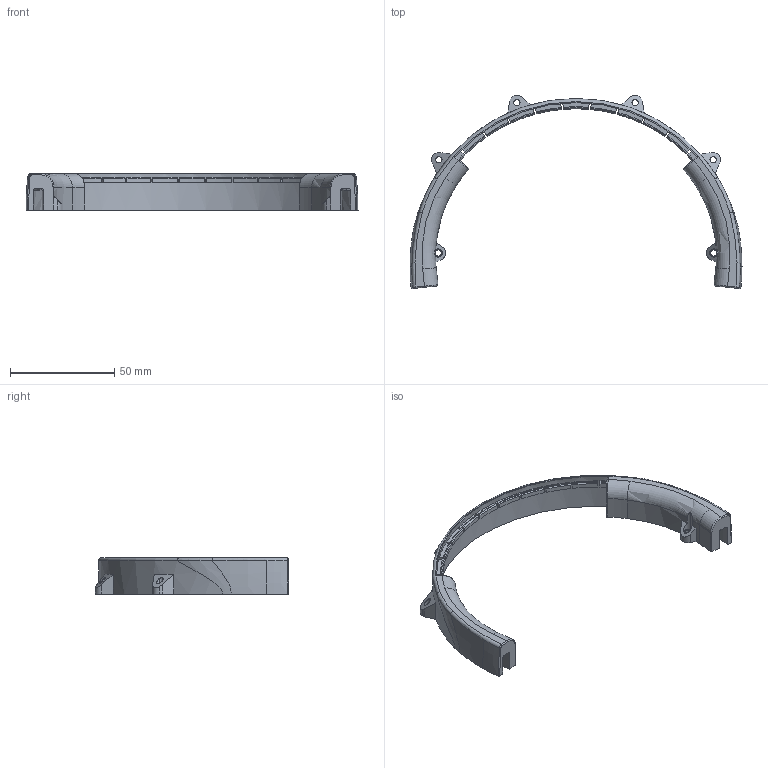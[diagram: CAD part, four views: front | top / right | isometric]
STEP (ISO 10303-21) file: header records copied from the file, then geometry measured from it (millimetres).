
FILE_DESCRIPTION (( 'STEP AP203' ), '1' );
FILE_NAME ('Razer Kraken X Headband Rear 03 (long).STEP', '2021-11-10T21:18:19', ( '' ), ( '' ), 'SwSTEP 2.0', 'SolidWorks 2020', '' );
FILE_SCHEMA (( 'CONFIG_CONTROL_DESIGN' ));
Length unit declared in the file: millimetre
Products named in the file (1): Razer Kraken X Headband Rear 03 (long)
Bounding box: 159.48 x 92.78 x 17.5 mm (x, y, z)
Volume: 24159.7 mm3; surface area: 17396.2 mm2
Topology: 1 solids, 1 shells, 233 faces, 642 edges, 420 vertices
Faces by surface type: plane 97, cylinder 74, torus 35, cone 17, bspline 10
Entity records: 8705 total; most frequent: CARTESIAN_POINT 2678, ORIENTED_EDGE 1284, DIRECTION 1236, EDGE_CURVE 642, AXIS2_PLACEMENT_3D 478, VERTEX_POINT 420, VECTOR 280, LINE 280
